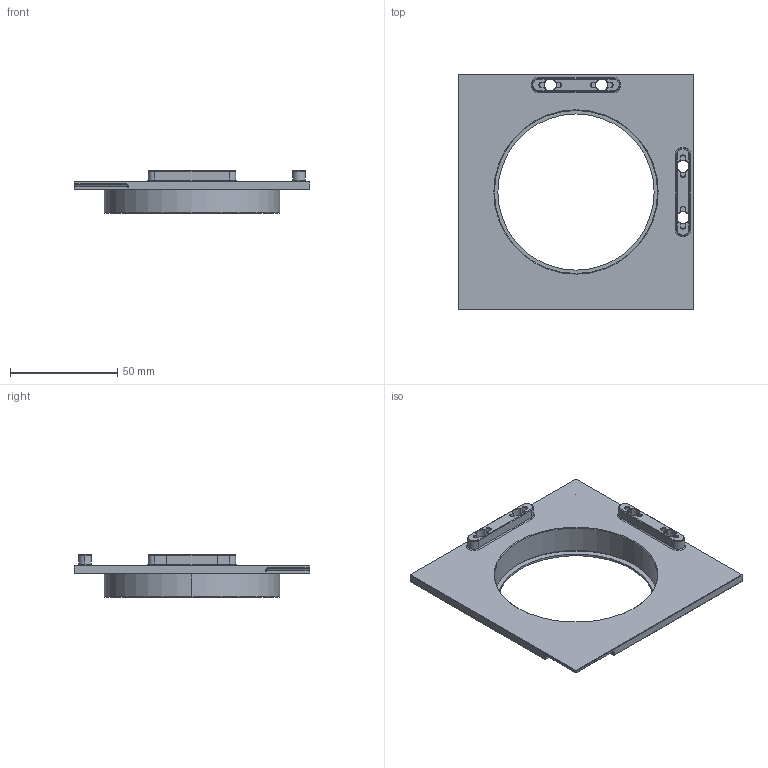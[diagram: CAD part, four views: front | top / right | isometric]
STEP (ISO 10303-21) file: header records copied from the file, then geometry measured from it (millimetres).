
FILE_DESCRIPTION (( 'STEP AP214' ), '1' );
FILE_NAME ('三英寸动板.STEP', '2026-10-09T05:40:26', ( '' ), ( '' ), 'SwSTEP 2.0', 'SolidWorks 2024', '' );
FILE_SCHEMA (( 'AUTOMOTIVE_DESIGN' ));
Length unit declared in the file: millimetre
Products named in the file (1): 三英寸动板
Bounding box: 110 x 110 x 20 mm (x, y, z)
Volume: 38025.9 mm3; surface area: 25669.2 mm2
Topology: 1 solids, 1 shells, 198 faces, 490 edges, 296 vertices
Faces by surface type: plane 107, cylinder 45, cone 41, torus 5
Entity records: 5855 total; most frequent: CARTESIAN_POINT 1100, DIRECTION 1009, ORIENTED_EDGE 976, EDGE_CURVE 488, AXIS2_PLACEMENT_3D 357, VERTEX_POINT 296, LINE 295, VECTOR 295
